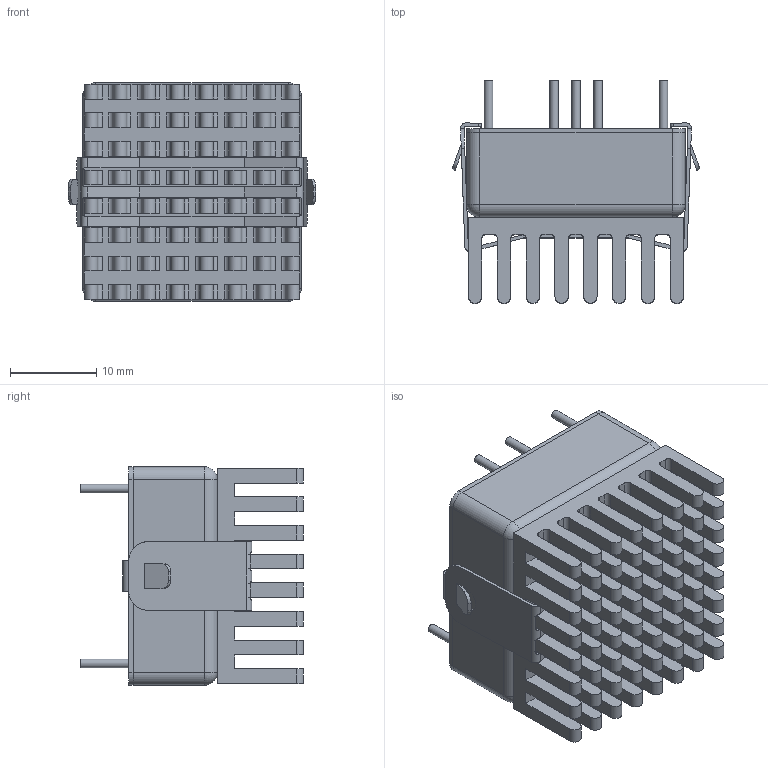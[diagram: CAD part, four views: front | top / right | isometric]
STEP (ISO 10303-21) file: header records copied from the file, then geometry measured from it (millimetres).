
FILE_DESCRIPTION (( 'STEP AP203' ), '1' );
FILE_NAME ('SBC100 TYPE 2023.05.18.STEP', '2023-05-18T08:38:14', ( '' ), ( '' ), 'SwSTEP 2.0', 'SolidWorks 2020', '' );
FILE_SCHEMA (( 'CONFIG_CONTROL_DESIGN' ));
Length unit declared in the file: millimetre
Products named in the file (1): SBC100 TYPE 2023.05.18
Bounding box: 28.76 x 25.9 x 25.4 mm (x, y, z)
Volume: 9334.6 mm3; surface area: 8037.2 mm2
Topology: 2 solids, 2 shells, 597 faces, 1624 edges, 1078 vertices
Faces by surface type: plane 330, cylinder 253, cone 9, sphere 4, bspline 1
Full cylindrical faces by diameter (mm): 1 x6, 1.1 x9
Entity records: 19292 total; most frequent: CARTESIAN_POINT 3850, DIRECTION 3208, ORIENTED_EDGE 3192, EDGE_CURVE 1596, AXIS2_PLACEMENT_3D 1089, VERTEX_POINT 1078, LINE 1030, VECTOR 1030
